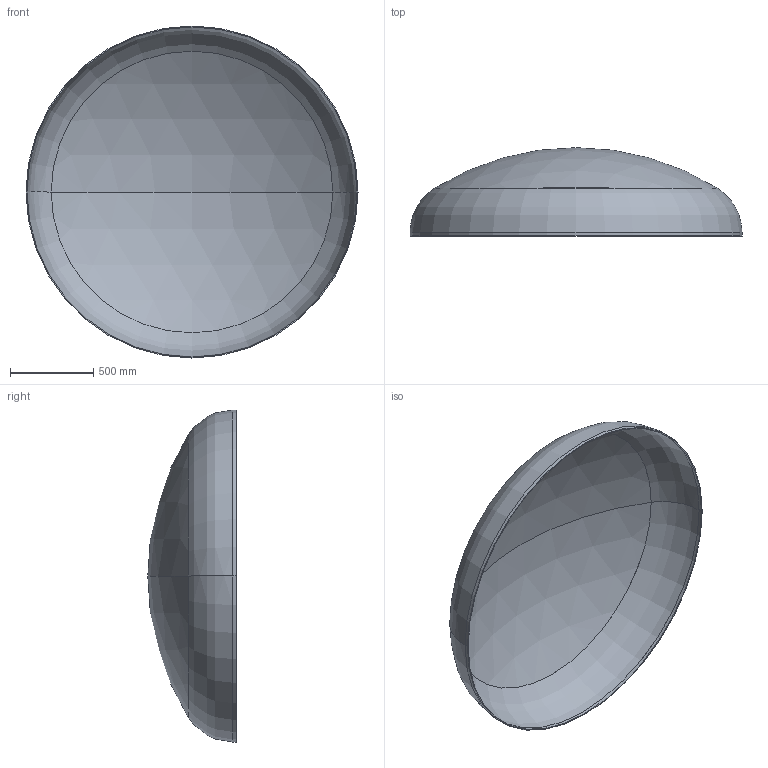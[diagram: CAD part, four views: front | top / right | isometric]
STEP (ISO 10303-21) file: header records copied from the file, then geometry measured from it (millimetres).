
FILE_DESCRIPTION (( 'STEP AP203' ), '1' );
FILE_NAME ('DIN 28013 Korbbogenform_-_Boden DIN 28013 - 2000 x 20 - I - s=6.step', '2016-07-01T13:33:21', ( '' ), ( '' ), 'SwSTEP 2.0', 'SolidWorks 2013', '' );
FILE_SCHEMA (( 'CONFIG_CONTROL_DESIGN' ));
Length unit declared in the file: millimetre
Products named in the file (1): DIN 28013 Korbbogenform_-_Boden DIN 28013 - 2000 x 20 - I - s=6
Bounding box: 2000 x 532.27 x 2000 mm (x, y, z)
Volume: 26789380.5 mm3; surface area: 8967451.3 mm2
Topology: 1 solids, 1 shells, 13 faces, 24 edges, 14 vertices
Faces by surface type: torus 4, cylinder 4, sphere 4, plane 1
Entity records: 407 total; most frequent: DIRECTION 72, CARTESIAN_POINT 52, ORIENTED_EDGE 48, AXIS2_PLACEMENT_3D 34, EDGE_CURVE 24, CIRCLE 20, VERTEX_POINT 14, EDGE_LOOP 14
